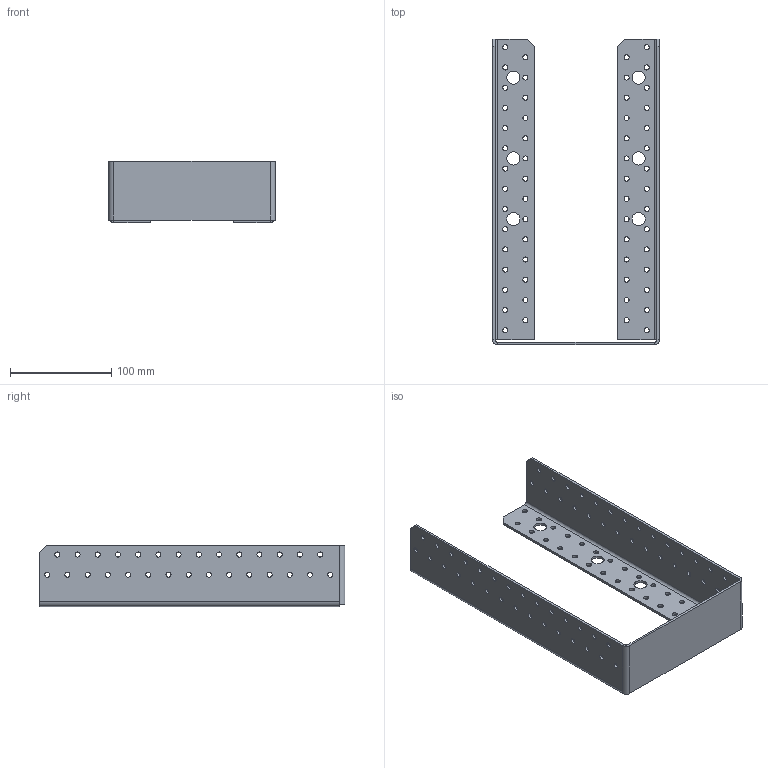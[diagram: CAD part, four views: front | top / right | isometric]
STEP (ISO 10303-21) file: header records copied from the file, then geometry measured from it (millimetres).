
FILE_DESCRIPTION (( 'STEP AP203' ), '1' );
FILE_NAME ('40532IKO.STEP', '2021-04-16T09:28:07', ( '' ), ( '' ), 'SwSTEP 2.0', 'SolidWorks 2013', '' );
FILE_SCHEMA (( 'CONFIG_CONTROL_DESIGN' ));
Length unit declared in the file: millimetre
Products named in the file (1): 40532IKO
Bounding box: 165 x 302.5 x 60.5 mm (x, y, z)
Volume: 161865.2 mm3; surface area: 139119.1 mm2
Topology: 1 solids, 1 shells, 288 faces, 828 edges, 542 vertices
Faces by surface type: cylinder 252, plane 36
Entity records: 10263 total; most frequent: DIRECTION 1912, CARTESIAN_POINT 1659, ORIENTED_EDGE 1656, EDGE_CURVE 828, AXIS2_PLACEMENT_3D 795, VERTEX_POINT 542, EDGE_LOOP 532, CIRCLE 506
